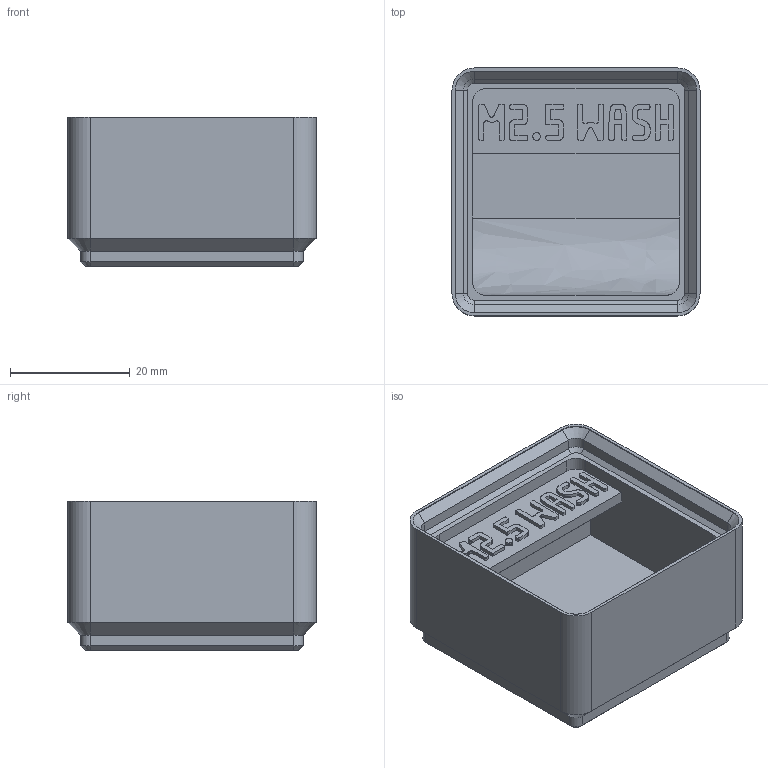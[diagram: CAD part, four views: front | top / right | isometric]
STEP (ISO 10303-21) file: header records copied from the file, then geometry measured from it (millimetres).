
FILE_DESCRIPTION(('Open CASCADE Model'),'2;1');
FILE_NAME('m2p5-washer','2026-11-17T16:08:05',('Author'),('Open CASCADE' ),'Open CASCADE STEP processor 8.0','build123d','Unknown');
FILE_SCHEMA(('AUTOMOTIVE_DESIGN { 1 0 10303 214 1 1 1 1 }'));
Products named in the file (1): m2p5-washer
Bounding box: 41.5 x 41.5 x 25 mm (x, y, z)
Volume: 22486 mm3; surface area: 9559.4 mm2
Topology: 1 solids, 1 shells, 912 faces, 2649 edges, 1750 vertices
Faces by surface type: plane 875, cylinder 20, cone 16, extrusion 1
Entity records: 62352 total; most frequent: CARTESIAN_POINT 12591, DIRECTION 8076, VECTOR 6142, LINE 6141, ORIENTED_EDGE 5298, PCURVE 5298, DEFINITIONAL_REPRESENTATION 5298, EDGE_CURVE 2649
